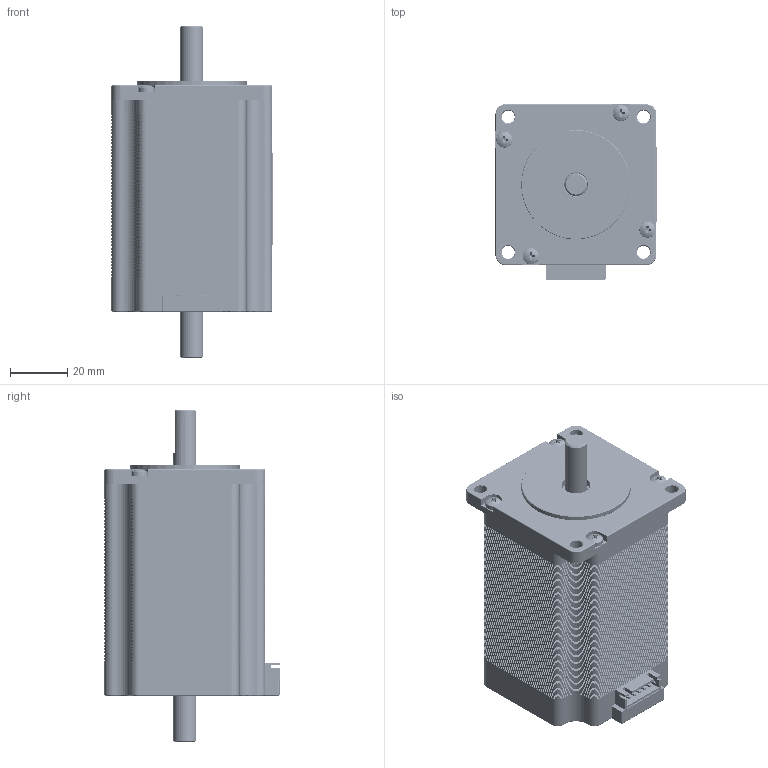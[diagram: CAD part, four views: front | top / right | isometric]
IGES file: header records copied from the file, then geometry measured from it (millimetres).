
Start section: SolidWorks IGES file using analytic representation for surfaces
Global section: file name: D:\WORK\3D\homepage\AK-2\56\A16K-G268W.IGS; native system: SolidWorks 2018; preprocessor: SolidWorks 2018; author: HP; date: 200720.133422; units: millimetre
Bounding box: 56.1 x 61 x 115.6 mm (x, y, z)
Surface area: 43170.4 mm2 (no closed solid volume)
Topology: 0 solids, 0 shells, 6434 faces, 78014 edges, 78004 vertices
Faces by surface type: bspline 3479, revolution 2955
